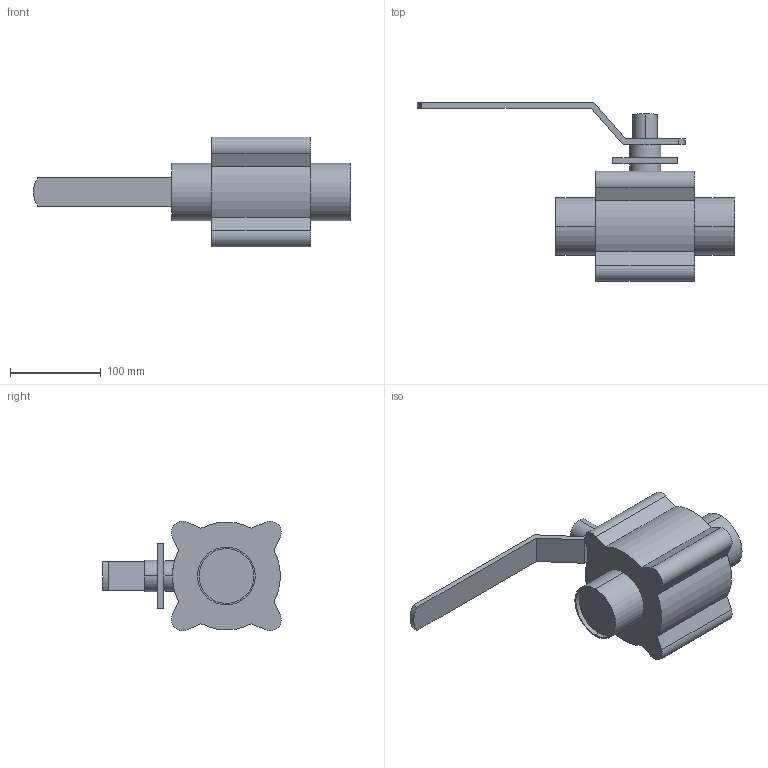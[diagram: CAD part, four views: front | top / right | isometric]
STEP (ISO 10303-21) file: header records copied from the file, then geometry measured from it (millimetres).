
FILE_DESCRIPTION(('Creo Elements/Direct Modeling STEP Export'),'2;1');
FILE_NAME('BLV1-2.5T-H-12S.stp','2019-05-10T 8:13:26',(''),(''),'Creo Elements/Direct Modeling STEP processor for AP214 (Solid Model)','Creo Elements/Direct Modeling 19.0F 14-Feb-2017 (C) Parametric Technology GmbH','');
FILE_SCHEMA(('AUTOMOTIVE_DESIGN { 1 0 10303 214 1 1 1 1 }'));
Length unit declared in the file: millimetre
Products named in the file (2): BLV1-2.5T-H-12S
Assembly tree (1 placements, depth 2):
  BLV1-2.5T-H-12S
    BLV1-2.5T-H-12S
Bounding box: 349.4 x 196.84 x 121.07 mm (x, y, z)
Volume: 1824615.9 mm3; surface area: 135937.4 mm2
Topology: 1 solids, 1 shells, 56 faces, 135 edges, 89 vertices
Faces by surface type: plane 32, cylinder 24
Entity records: 1599 total; most frequent: CARTESIAN_POINT 303, ORIENTED_EDGE 270, DIRECTION 246, EDGE_CURVE 135, VERTEX_POINT 89, AXIS2_PLACEMENT_3D 83, VECTOR 80, LINE 80
